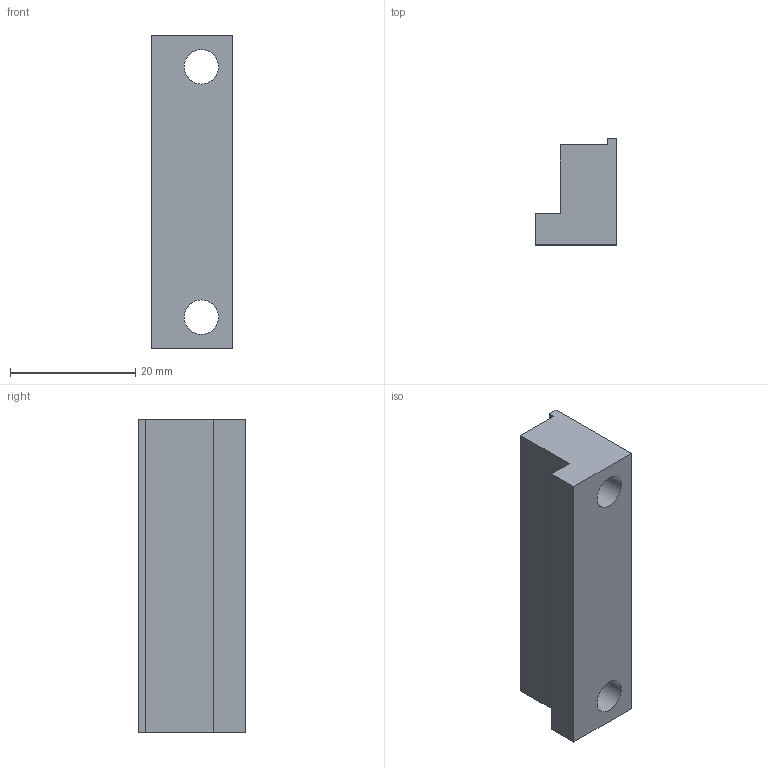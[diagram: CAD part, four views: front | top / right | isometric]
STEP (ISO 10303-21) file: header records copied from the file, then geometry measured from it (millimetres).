
FILE_DESCRIPTION(('STEP AP203'), '1');
FILE_NAME('ÒÏÏÔ1801.01.07.00.003 - Ïðèæèì ìîäóëÿ', '', ('UNSPECIFIED'), ('UNSPECIFIED'), 'C3D Converter', 'C3D Toolkit', '');
FILE_SCHEMA(('CONFIG_CONTROL_DESIGN'));
Length unit declared in the file: millimetre
Products named in the file (1): ТППФ1801.01.07.00.003
Bounding box: 13 x 17 x 50 mm (x, y, z)
Volume: 7514.7 mm3; surface area: 3788.9 mm2
Topology: 1 solids, 1 shells, 12 faces, 30 edges, 20 vertices
Faces by surface type: plane 10, cylinder 2
Full cylindrical faces by diameter (mm): 5.5 x2
Entity records: 487 total; most frequent: CARTESIAN_POINT 61, DIRECTION 58, ORIENTED_EDGE 56, EDGE_CURVE 28, LINE 24, VECTOR 24, VERTEX_POINT 20, EDGE_LOOP 18
